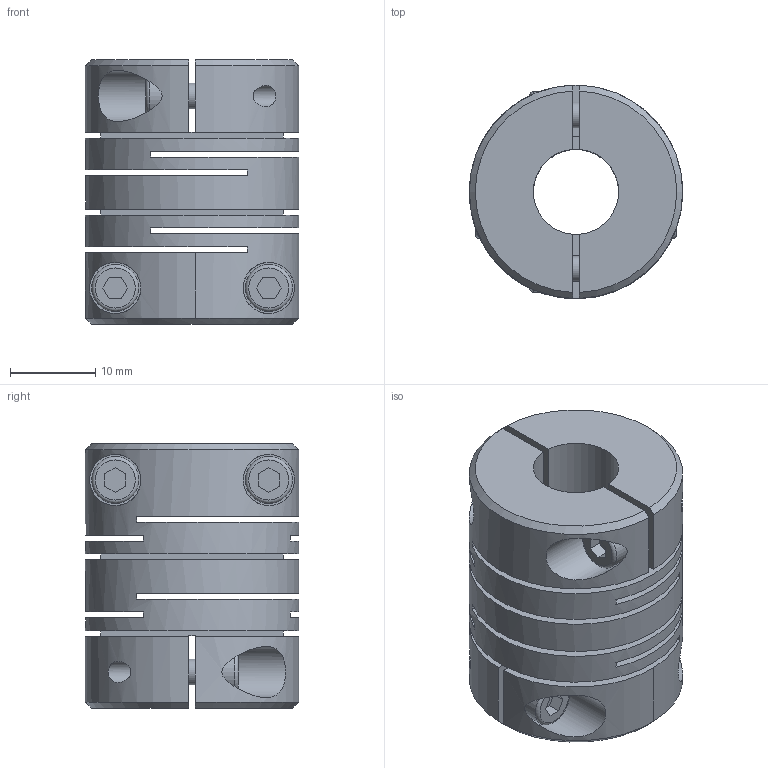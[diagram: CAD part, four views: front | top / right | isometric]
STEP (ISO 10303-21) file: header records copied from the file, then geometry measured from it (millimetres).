
FILE_DESCRIPTION (( 'STEP AP214' ), '1' );
FILE_NAME ('2246-25-B10-10-NI.step', '2022-05-27T09:31:01', ( '' ), ( '' ), 'SwSTEP 2.0', 'SolidWorks 2019', '' );
FILE_SCHEMA (( 'AUTOMOTIVE_DESIGN' ));
Length unit declared in the file: millimetre
Products named in the file (1): 2246-25-B10-10-NI
Bounding box: 25 x 24.99 x 31 mm (x, y, z)
Volume: 10661.2 mm3; surface area: 9161.6 mm2
Topology: 1 solids, 1 shells, 121 faces, 304 edges, 205 vertices
Faces by surface type: plane 78, cylinder 31, cone 8, torus 4
Full cylindrical faces by diameter (mm): 2.5 x4, 3 x4, 3.3 x4, 5.5 x4, 6 x4, 10 x5, 25 x1
Entity records: 4260 total; most frequent: CARTESIAN_POINT 969, DIRECTION 544, ORIENTED_EDGE 472, EDGE_CURVE 236, AXIS2_PLACEMENT_3D 203, EDGE_LOOP 196, VERTEX_POINT 176, FACE_OUTER_BOUND 150
